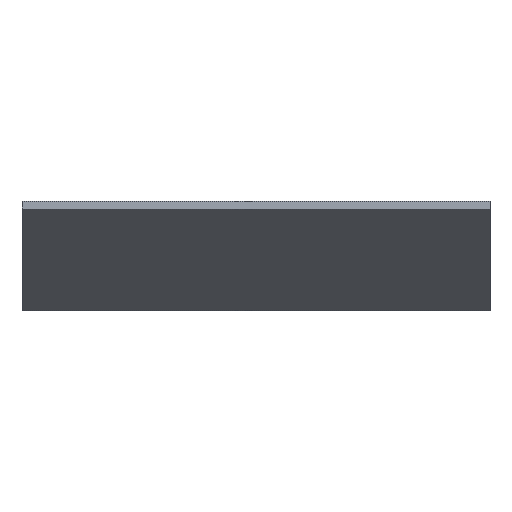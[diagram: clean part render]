
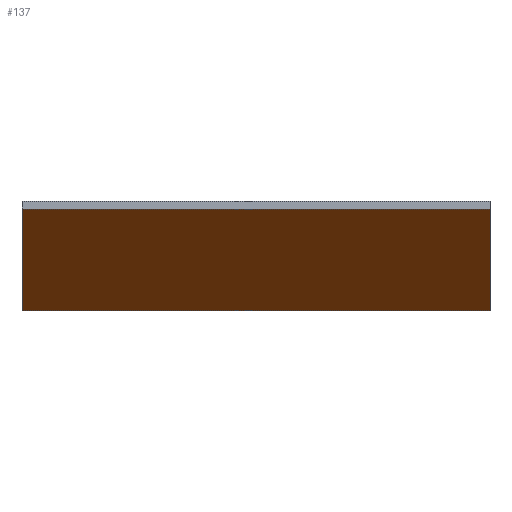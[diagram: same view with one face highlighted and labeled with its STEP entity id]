
A CAD part, front view. The second image highlights one B-rep face of the part: STEP entity #137.
In plain terms, the highlighted planar face has unit normal (0, -0.631, -0.776).
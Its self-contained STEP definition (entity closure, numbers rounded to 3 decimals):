
#32 = PLANE('',#33);
#33 = AXIS2_PLACEMENT_3D('',#34,#35,#36);
#34 = CARTESIAN_POINT('',(-21.5,-33.,-8.825));
#35 = DIRECTION('',(0.,0.,1.));
#36 = DIRECTION('',(0.,1.,0.));
#57 = VERTEX_POINT('',#58);
#58 = CARTESIAN_POINT('',(-15.5,-31.,-8.825));
#72 = PLANE('',#73);
#73 = AXIS2_PLACEMENT_3D('',#74,#75,#76);
#74 = CARTESIAN_POINT('',(-15.5,-25.,-9.604));
#75 = DIRECTION('',(1.,0.,0.));
#76 = DIRECTION('',(-0.,0.,1.));
#84 = EDGE_CURVE('',#85,#57,#87,.T.);
#85 = VERTEX_POINT('',#86);
#86 = CARTESIAN_POINT('',(-21.5,-31.,-8.825));
#87 = SURFACE_CURVE('',#88,(#92,#99),.PCURVE_S1.);
#88 = LINE('',#89,#90);
#89 = CARTESIAN_POINT('',(-21.5,-31.,-8.825));
#90 = VECTOR('',#91,1.);
#91 = DIRECTION('',(1.,0.,0.));
#92 = PCURVE('',#32,#93);
#93 = DEFINITIONAL_REPRESENTATION('',(#94),#98);
#94 = LINE('',#95,#96);
#95 = CARTESIAN_POINT('',(2.,0.));
#96 = VECTOR('',#97,1.);
#97 = DIRECTION('',(0.,-1.));
#98 = ( GEOMETRIC_REPRESENTATION_CONTEXT(2) 
PARAMETRIC_REPRESENTATION_CONTEXT() REPRESENTATION_CONTEXT('2D SPACE',''
  ) );
#99 = PCURVE('',#100,#105);
#100 = PLANE('',#101);
#101 = AXIS2_PLACEMENT_3D('',#102,#103,#104);
#102 = CARTESIAN_POINT('',(-21.5,-31.,-8.825));
#103 = DIRECTION('',(-0.,0.631,0.776));
#104 = DIRECTION('',(0.,0.776,-0.631));
#105 = DEFINITIONAL_REPRESENTATION('',(#106),#110);
#106 = LINE('',#107,#108);
#107 = CARTESIAN_POINT('',(0.,0.));
#108 = VECTOR('',#109,1.);
#109 = DIRECTION('',(0.,-1.));
#110 = ( GEOMETRIC_REPRESENTATION_CONTEXT(2) 
PARAMETRIC_REPRESENTATION_CONTEXT() REPRESENTATION_CONTEXT('2D SPACE',''
  ) );
#126 = PLANE('',#127);
#127 = AXIS2_PLACEMENT_3D('',#128,#129,#130);
#128 = CARTESIAN_POINT('',(-21.5,-25.,-9.604));
#129 = DIRECTION('',(1.,0.,0.));
#130 = DIRECTION('',(-0.,0.,1.));
#137 = ADVANCED_FACE('',(#138),#100,.F.);
#138 = FACE_BOUND('',#139,.F.);
#139 = EDGE_LOOP('',(#140,#141,#164,#192));
#140 = ORIENTED_EDGE('',*,*,#84,.T.);
#141 = ORIENTED_EDGE('',*,*,#142,.T.);
#142 = EDGE_CURVE('',#57,#143,#145,.T.);
#143 = VERTEX_POINT('',#144);
#144 = CARTESIAN_POINT('',(-15.5,-29.4,-10.125));
#145 = SURFACE_CURVE('',#146,(#150,#157),.PCURVE_S1.);
#146 = LINE('',#147,#148);
#147 = CARTESIAN_POINT('',(-15.5,-31.,-8.825));
#148 = VECTOR('',#149,1.);
#149 = DIRECTION('',(0.,0.776,-0.631));
#150 = PCURVE('',#100,#151);
#151 = DEFINITIONAL_REPRESENTATION('',(#152),#156);
#152 = LINE('',#153,#154);
#153 = CARTESIAN_POINT('',(0.,-6.));
#154 = VECTOR('',#155,1.);
#155 = DIRECTION('',(1.,0.));
#156 = ( GEOMETRIC_REPRESENTATION_CONTEXT(2) 
PARAMETRIC_REPRESENTATION_CONTEXT() REPRESENTATION_CONTEXT('2D SPACE',''
  ) );
#157 = PCURVE('',#72,#158);
#158 = DEFINITIONAL_REPRESENTATION('',(#159),#163);
#159 = LINE('',#160,#161);
#160 = CARTESIAN_POINT('',(0.779,6.));
#161 = VECTOR('',#162,1.);
#162 = DIRECTION('',(-0.631,-0.776));
#163 = ( GEOMETRIC_REPRESENTATION_CONTEXT(2) 
PARAMETRIC_REPRESENTATION_CONTEXT() REPRESENTATION_CONTEXT('2D SPACE',''
  ) );
#164 = ORIENTED_EDGE('',*,*,#165,.F.);
#165 = EDGE_CURVE('',#166,#143,#168,.T.);
#166 = VERTEX_POINT('',#167);
#167 = CARTESIAN_POINT('',(-21.5,-29.4,-10.125));
#168 = SURFACE_CURVE('',#169,(#173,#180),.PCURVE_S1.);
#169 = LINE('',#170,#171);
#170 = CARTESIAN_POINT('',(-21.5,-29.4,-10.125));
#171 = VECTOR('',#172,1.);
#172 = DIRECTION('',(1.,0.,0.));
#173 = PCURVE('',#100,#174);
#174 = DEFINITIONAL_REPRESENTATION('',(#175),#179);
#175 = LINE('',#176,#177);
#176 = CARTESIAN_POINT('',(2.062,0.));
#177 = VECTOR('',#178,1.);
#178 = DIRECTION('',(0.,-1.));
#179 = ( GEOMETRIC_REPRESENTATION_CONTEXT(2) 
PARAMETRIC_REPRESENTATION_CONTEXT() REPRESENTATION_CONTEXT('2D SPACE',''
  ) );
#180 = PCURVE('',#181,#186);
#181 = PLANE('',#182);
#182 = AXIS2_PLACEMENT_3D('',#183,#184,#185);
#183 = CARTESIAN_POINT('',(-21.5,-29.4,-10.125));
#184 = DIRECTION('',(0.,0.,1.));
#185 = DIRECTION('',(0.,1.,0.));
#186 = DEFINITIONAL_REPRESENTATION('',(#187),#191);
#187 = LINE('',#188,#189);
#188 = CARTESIAN_POINT('',(0.,0.));
#189 = VECTOR('',#190,1.);
#190 = DIRECTION('',(0.,-1.));
#191 = ( GEOMETRIC_REPRESENTATION_CONTEXT(2) 
PARAMETRIC_REPRESENTATION_CONTEXT() REPRESENTATION_CONTEXT('2D SPACE',''
  ) );
#192 = ORIENTED_EDGE('',*,*,#193,.F.);
#193 = EDGE_CURVE('',#85,#166,#194,.T.);
#194 = SURFACE_CURVE('',#195,(#199,#206),.PCURVE_S1.);
#195 = LINE('',#196,#197);
#196 = CARTESIAN_POINT('',(-21.5,-31.,-8.825));
#197 = VECTOR('',#198,1.);
#198 = DIRECTION('',(0.,0.776,-0.631));
#199 = PCURVE('',#100,#200);
#200 = DEFINITIONAL_REPRESENTATION('',(#201),#205);
#201 = LINE('',#202,#203);
#202 = CARTESIAN_POINT('',(0.,0.));
#203 = VECTOR('',#204,1.);
#204 = DIRECTION('',(1.,0.));
#205 = ( GEOMETRIC_REPRESENTATION_CONTEXT(2) 
PARAMETRIC_REPRESENTATION_CONTEXT() REPRESENTATION_CONTEXT('2D SPACE',''
  ) );
#206 = PCURVE('',#126,#207);
#207 = DEFINITIONAL_REPRESENTATION('',(#208),#212);
#208 = LINE('',#209,#210);
#209 = CARTESIAN_POINT('',(0.779,6.));
#210 = VECTOR('',#211,1.);
#211 = DIRECTION('',(-0.631,-0.776));
#212 = ( GEOMETRIC_REPRESENTATION_CONTEXT(2) 
PARAMETRIC_REPRESENTATION_CONTEXT() REPRESENTATION_CONTEXT('2D SPACE',''
  ) );
